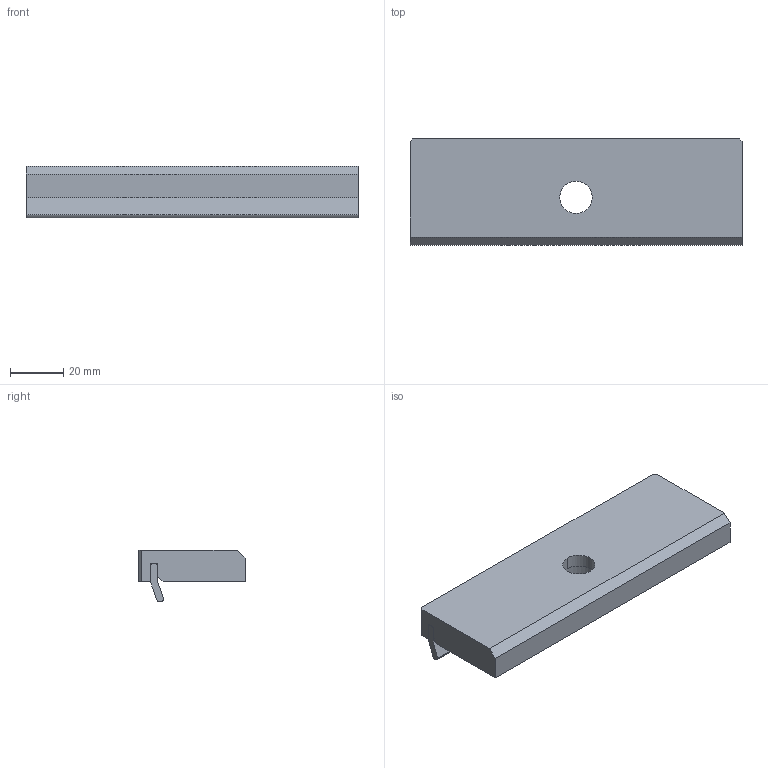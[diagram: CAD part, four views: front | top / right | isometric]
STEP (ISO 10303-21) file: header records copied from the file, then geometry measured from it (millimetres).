
FILE_DESCRIPTION (( 'STEP AP214' ), '1' );
FILE_NAME ('6921024001042.STEP', '2016-02-12T11:49:04', ( '' ), ( '' ), 'SwSTEP 2.0', 'SolidWorks 2015', '' );
FILE_SCHEMA (( 'AUTOMOTIVE_DESIGN' ));
Length unit declared in the file: millimetre
Products named in the file (3): 6921024001000; 6921024002100_Federblatt-montiert; 6921024001042
Assembly tree (2 placements, depth 2):
  6921024001042
    6921024001000
    6921024002100_Federblatt-montiert
Bounding box: 125 x 40 x 19.5 mm (x, y, z)
Volume: 59249.2 mm3; surface area: 19803 mm2
Topology: 2 solids, 2 shells, 27 faces, 66 edges, 44 vertices
Faces by surface type: plane 21, cylinder 6
Entity records: 906 total; most frequent: DIRECTION 142, CARTESIAN_POINT 142, ORIENTED_EDGE 132, EDGE_CURVE 66, LINE 54, VECTOR 54, VERTEX_POINT 44, AXIS2_PLACEMENT_3D 44
